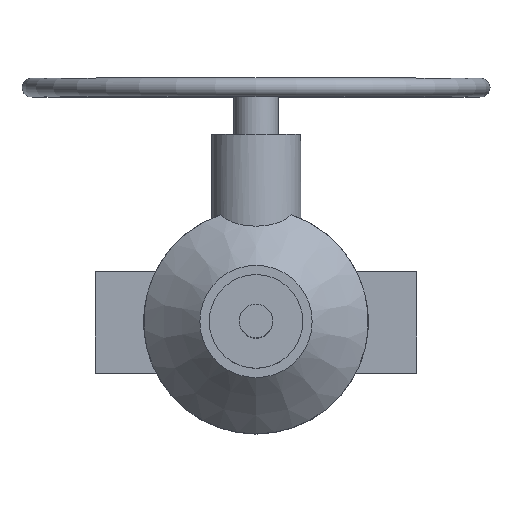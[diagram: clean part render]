
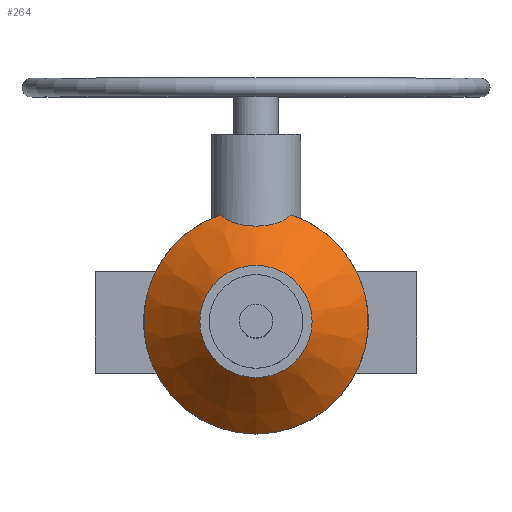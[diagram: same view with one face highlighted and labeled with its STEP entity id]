
A CAD part, top view. The second image highlights one B-rep face of the part: STEP entity #264.
In plain terms, the highlighted conical face has half-angle 45 degrees and reference radius 45 mm.
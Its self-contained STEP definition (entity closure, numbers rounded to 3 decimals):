
#264=ADVANCED_FACE('',(#1228,#1230),#1232,.T.);
#1228=FACE_BOUND('',#1229,.T.);
#1229=EDGE_LOOP('',(#2025,#2026,#2027,#2028));
#1230=FACE_OUTER_BOUND('',#1231,.T.);
#1231=EDGE_LOOP('',(#2029));
#1232=CONICAL_SURFACE('',#1233,45.,0.785);
#1233=AXIS2_PLACEMENT_3D('',#1234,#1235,#1236);
#1234=CARTESIAN_POINT('',(0.,0.,426.));
#1235=DIRECTION('',(0.,0.,-1.));
#1236=DIRECTION('',(0.,-1.,0.));
#2025=ORIENTED_EDGE('',*,*,#2488,.F.);
#2026=ORIENTED_EDGE('',*,*,#2489,.F.);
#2027=ORIENTED_EDGE('',*,*,#2490,.F.);
#2028=ORIENTED_EDGE('',*,*,#2491,.F.);
#2029=ORIENTED_EDGE('',*,*,#2473,.T.);
#2473=EDGE_CURVE('',#2765,#2765,#2766,.T.);
#2488=EDGE_CURVE('',#2791,#2792,#2793,.F.);
#2489=EDGE_CURVE('',#2794,#2791,#2795,.F.);
#2490=EDGE_CURVE('',#2796,#2794,#2797,.T.);
#2491=EDGE_CURVE('',#2792,#2796,#2798,.T.);
#2765=VERTEX_POINT('',#3304);
#2766=CIRCLE('',#3305,30.);
#2791=VERTEX_POINT('',#3363);
#2792=VERTEX_POINT('',#3364);
#2793=B_SPLINE_CURVE_WITH_KNOTS('',3,
(#3365,#3366,#3367,#3368,#3369,#3370,#3371,#3372,#3373,#3374,#3375,#3376,#3377,#3378,
#3379,#3380,#3381,#3382,#3383,#3384,#3385,#3386,#3387,#3388,#3389,#3390,#3391,#3392,
#3393,#3394,#3395,#3396,#3397,#3398,#3399,#3400,#3401,#3402,#3403,#3404,#3405,#3406,
#3407,#3408),
.UNSPECIFIED.,.F.,.F.,
(4,1,1,1,1,1,1,1,1,1,1,1,1,1,1,1,1,1,1,1,1,1,1,1,1,1,1,1,1,1,1,1,1,1,1,1,1,1,1,1,
1,4),
(0.,0.02,0.041,0.061,0.082,0.102,
0.122,0.143,0.163,0.183,0.204,
0.224,0.245,0.266,0.287,0.308,
0.329,0.351,0.375,0.401,0.441,
0.481,0.521,0.551,0.581,0.621,
0.661,0.701,0.735,0.766,0.794,
0.814,0.834,0.853,0.873,0.892,
0.91,0.929,0.947,0.965,0.982,
1.),
.UNSPECIFIED.);
#2794=VERTEX_POINT('',#3409);
#2795=B_SPLINE_CURVE_WITH_KNOTS('',3,
(#3410,#3411,#3412,#3413,#3414,#3415,#3416,#3417,#3418,#3419,#3420,#3421,#3422,#3423,
#3424,#3425,#3426,#3427,#3428,#3429,#3430,#3431,#3432,#3433,#3434,#3435,#3436,#3437,
#3438,#3439,#3440,#3441,#3442,#3443,#3444,#3445,#3446,#3447,#3448,#3449,#3450,#3451,
#3452),
.UNSPECIFIED.,.F.,.F.,
(4,1,1,1,1,1,1,1,1,1,1,1,1,1,1,1,1,1,1,1,1,1,1,1,1,1,1,1,1,1,1,1,1,1,1,1,1,1,1,1,
4),
(0.,0.024,0.047,0.071,0.095,0.118,
0.145,0.173,0.216,0.258,0.3,
0.337,0.371,0.403,0.43,0.459,
0.501,0.543,0.584,0.62,0.652,
0.681,0.703,0.724,0.744,0.764,
0.783,0.802,0.82,0.838,0.855,
0.871,0.887,0.903,0.918,0.932,
0.946,0.96,0.974,0.987,1.),
.UNSPECIFIED.);
#2796=VERTEX_POINT('',#3453);
#2797=CIRCLE('',#3454,60.);
#2798=CIRCLE('',#3458,60.);
#3304=CARTESIAN_POINT('',(0.,-30.,441.));
#3305=AXIS2_PLACEMENT_3D('',#3306,#3307,#3308);
#3306=CARTESIAN_POINT('',(0.,0.,441.));
#3307=DIRECTION('',(0.,0.,-1.));
#3308=DIRECTION('',(0.,-1.,0.));
#3363=CARTESIAN_POINT('',(0.,51.,420.));
#3364=CARTESIAN_POINT('',(18.735,57.,411.));
#3365=CARTESIAN_POINT('',(18.735,57.,411.));
#3366=CARTESIAN_POINT('',(18.653,56.919,411.102));
#3367=CARTESIAN_POINT('',(18.487,56.759,411.306));
#3368=CARTESIAN_POINT('',(18.232,56.523,411.61));
#3369=CARTESIAN_POINT('',(17.97,56.291,411.91));
#3370=CARTESIAN_POINT('',(17.702,56.064,412.208));
#3371=CARTESIAN_POINT('',(17.428,55.841,412.502));
#3372=CARTESIAN_POINT('',(17.147,55.623,412.794));
#3373=CARTESIAN_POINT('',(16.859,55.409,413.083));
#3374=CARTESIAN_POINT('',(16.564,55.199,413.369));
#3375=CARTESIAN_POINT('',(16.262,54.994,413.652));
#3376=CARTESIAN_POINT('',(15.953,54.793,413.932));
#3377=CARTESIAN_POINT('',(15.636,54.596,414.21));
#3378=CARTESIAN_POINT('',(15.31,54.403,414.484));
#3379=CARTESIAN_POINT('',(14.976,54.214,414.756));
#3380=CARTESIAN_POINT('',(14.633,54.029,415.025));
#3381=CARTESIAN_POINT('',(14.281,53.848,415.291));
#3382=CARTESIAN_POINT('',(13.919,53.672,415.553));
#3383=CARTESIAN_POINT('',(13.534,53.493,415.822));
#3384=CARTESIAN_POINT('',(13.109,53.306,416.106));
#3385=CARTESIAN_POINT('',(12.567,53.083,416.451));
#3386=CARTESIAN_POINT('',(11.915,52.835,416.84));
#3387=CARTESIAN_POINT('',(11.159,52.577,417.254));
#3388=CARTESIAN_POINT('',(10.444,52.357,417.613));
#3389=CARTESIAN_POINT('',(9.777,52.171,417.922));
#3390=CARTESIAN_POINT('',(9.098,51.998,418.213));
#3391=CARTESIAN_POINT('',(8.34,51.825,418.51));
#3392=CARTESIAN_POINT('',(7.502,51.657,418.803));
#3393=CARTESIAN_POINT('',(6.695,51.517,419.052));
#3394=CARTESIAN_POINT('',(5.942,51.403,419.257));
#3395=CARTESIAN_POINT('',(5.267,51.314,419.418));
#3396=CARTESIAN_POINT('',(4.687,51.247,419.54));
#3397=CARTESIAN_POINT('',(4.184,51.196,419.634));
#3398=CARTESIAN_POINT('',(3.741,51.156,419.708));
#3399=CARTESIAN_POINT('',(3.304,51.121,419.773));
#3400=CARTESIAN_POINT('',(2.873,51.091,419.829));
#3401=CARTESIAN_POINT('',(2.447,51.066,419.876));
#3402=CARTESIAN_POINT('',(2.028,51.045,419.915));
#3403=CARTESIAN_POINT('',(1.614,51.028,419.947));
#3404=CARTESIAN_POINT('',(1.206,51.015,419.971));
#3405=CARTESIAN_POINT('',(0.8,51.006,419.988));
#3406=CARTESIAN_POINT('',(0.399,51.001,419.998));
#3407=CARTESIAN_POINT('',(0.133,51.,420.));
#3408=CARTESIAN_POINT('',(0.,51.,420.));
#3409=CARTESIAN_POINT('',(-18.735,57.,411.));
#3410=CARTESIAN_POINT('',(0.,51.,420.));
#3411=CARTESIAN_POINT('',(-0.179,51.,420.));
#3412=CARTESIAN_POINT('',(-0.536,51.002,419.996));
#3413=CARTESIAN_POINT('',(-1.071,51.012,419.978));
#3414=CARTESIAN_POINT('',(-1.604,51.027,419.948));
#3415=CARTESIAN_POINT('',(-2.137,51.05,419.907));
#3416=CARTESIAN_POINT('',(-2.688,51.079,419.851));
#3417=CARTESIAN_POINT('',(-3.277,51.118,419.778));
#3418=CARTESIAN_POINT('',(-4.,51.177,419.669));
#3419=CARTESIAN_POINT('',(-4.836,51.261,419.514));
#3420=CARTESIAN_POINT('',(-5.759,51.376,419.305));
#3421=CARTESIAN_POINT('',(-6.634,51.506,419.071));
#3422=CARTESIAN_POINT('',(-7.442,51.647,418.822));
#3423=CARTESIAN_POINT('',(-8.165,51.789,418.572));
#3424=CARTESIAN_POINT('',(-8.806,51.93,418.329));
#3425=CARTESIAN_POINT('',(-9.401,52.074,418.085));
#3426=CARTESIAN_POINT('',(-10.056,52.246,417.797));
#3427=CARTESIAN_POINT('',(-10.798,52.462,417.44));
#3428=CARTESIAN_POINT('',(-11.601,52.724,417.016));
#3429=CARTESIAN_POINT('',(-12.342,52.994,416.589));
#3430=CARTESIAN_POINT('',(-13.005,53.261,416.175));
#3431=CARTESIAN_POINT('',(-13.579,53.512,415.793));
#3432=CARTESIAN_POINT('',(-14.055,53.737,415.456));
#3433=CARTESIAN_POINT('',(-14.457,53.938,415.159));
#3434=CARTESIAN_POINT('',(-14.801,54.119,414.894));
#3435=CARTESIAN_POINT('',(-15.133,54.302,414.63));
#3436=CARTESIAN_POINT('',(-15.451,54.485,414.367));
#3437=CARTESIAN_POINT('',(-15.755,54.669,414.106));
#3438=CARTESIAN_POINT('',(-16.044,54.851,413.851));
#3439=CARTESIAN_POINT('',(-16.318,55.032,413.6));
#3440=CARTESIAN_POINT('',(-16.577,55.209,413.356));
#3441=CARTESIAN_POINT('',(-16.823,55.384,413.118));
#3442=CARTESIAN_POINT('',(-17.055,55.554,412.887));
#3443=CARTESIAN_POINT('',(-17.276,55.723,412.661));
#3444=CARTESIAN_POINT('',(-17.486,55.888,412.44));
#3445=CARTESIAN_POINT('',(-17.688,56.053,412.223));
#3446=CARTESIAN_POINT('',(-17.88,56.214,412.011));
#3447=CARTESIAN_POINT('',(-18.064,56.374,411.803));
#3448=CARTESIAN_POINT('',(-18.24,56.532,411.599));
#3449=CARTESIAN_POINT('',(-18.411,56.688,411.397));
#3450=CARTESIAN_POINT('',(-18.575,56.844,411.198));
#3451=CARTESIAN_POINT('',(-18.682,56.948,411.066));
#3452=CARTESIAN_POINT('',(-18.735,57.,411.));
#3453=CARTESIAN_POINT('',(0.,-60.,411.));
#3454=AXIS2_PLACEMENT_3D('',#3455,#3456,#3457);
#3455=CARTESIAN_POINT('',(0.,0.,411.));
#3456=DIRECTION('',(0.,0.,-1.));
#3457=DIRECTION('',(0.,-1.,0.));
#3458=AXIS2_PLACEMENT_3D('',#3459,#3460,#3461);
#3459=CARTESIAN_POINT('',(0.,0.,411.));
#3460=DIRECTION('',(0.,0.,-1.));
#3461=DIRECTION('',(0.312,0.95,0.));
